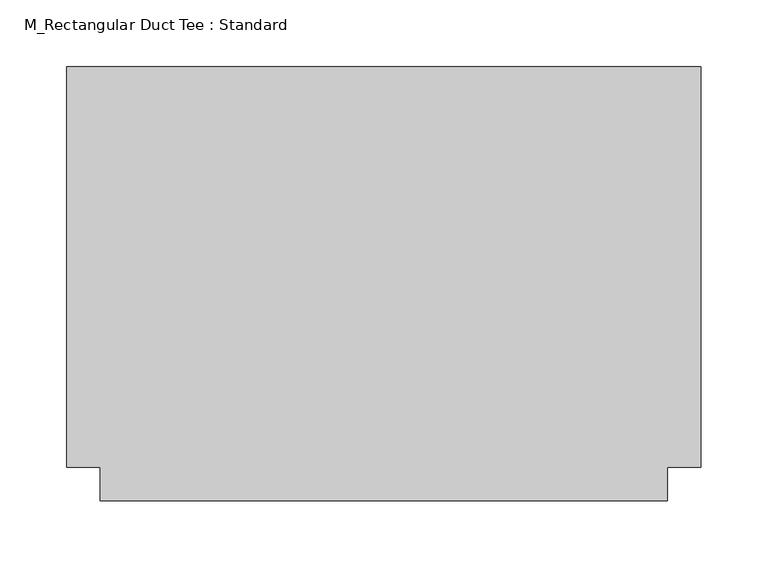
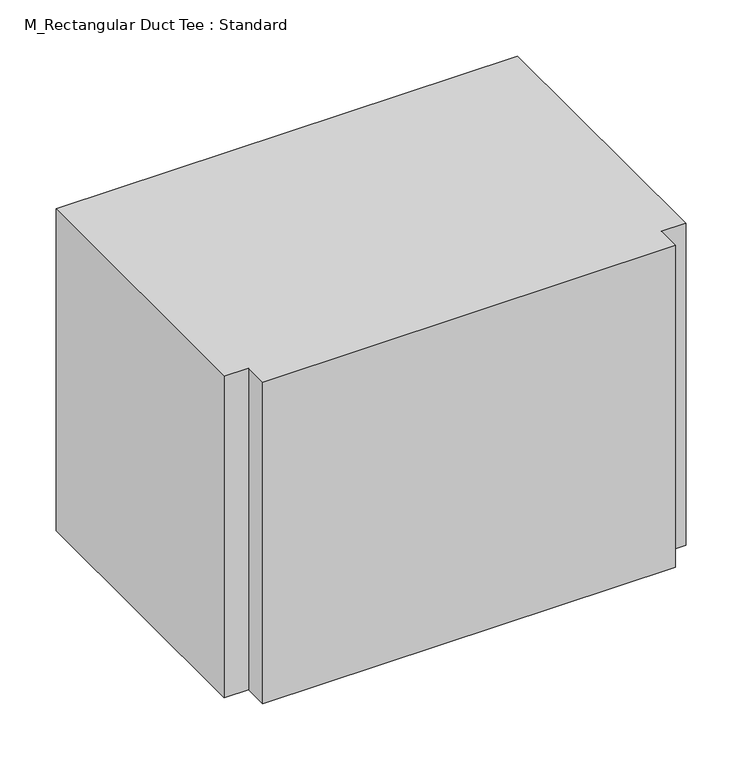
"""IFC4 building model written with IfcOpenShell, lengths in millimetres: duct fitting geometry, M_Rectangular Duct Tee : Standard."""

from ifc_helpers import new_model, si_unit, frame, origin, place, context, project, spatial, polyline, outline, extrude, source, transform, mapped, element, save


def m_rectangular_duct_tee_standard_99600bcc(model_context):
    return source(origin(), model_context, "Body", "SweptSolid", [
        extrude(outline(polyline([(-237.5, -150.0), (-237.5, 150.0), (237.5, 150.0), (237.5, -150.0), (212.5, -150.0), (212.5, -175.0), (-212.5, -175.0), (-212.5, -150.0), (-237.5, -150.0)])), frame((0.0, 0.0, -175.0), z_axis=(0.0, 0.0, 1.0), x_axis=(1.0, 0.0, 0.0)), (0.0, 0.0, 1.0), 350.0),
        extrude(outline(polyline([(-237.5, 150.0), (237.5, 150.0), (237.5, -150.0), (212.5, -150.0), (212.5, -175.0), (-212.5, -175.0), (-212.5, -150.0), (-237.5, -150.0), (-237.5, 150.0)])), frame((0.0, 0.0, -175.0), z_axis=(0.0, 0.0, 1.0), x_axis=(1.0, 0.0, 0.0)), (0.0, 0.0, 1.0), 350.0),
        extrude(outline(polyline([(-237.5, -150.0), (-237.5, 150.0), (237.5, 150.0), (237.5, -150.0), (212.5, -150.0), (212.5, -175.0), (-212.5, -175.0), (-212.5, -150.0), (-237.5, -150.0)])), frame((0.0, 0.0, -175.0), z_axis=(0.0, 0.0, 1.0), x_axis=(1.0, 0.0, 0.0)), (0.0, 0.0, 1.0), 350.0),
    ])


if __name__ == "__main__":
    model = new_model("IFC4")
    model_context = context("Model", 3, world=origin())
    ifc_project = project(units=[si_unit("LENGTHUNIT", "METRE", prefix="MILLI")], contexts=[model_context])
    site = spatial("IfcSite", under=ifc_project)
    building = spatial("IfcBuilding", under=site)
    placement = place(None, origin())
    m_rectangular_duct_tee_standard_shape = m_rectangular_duct_tee_standard_99600bcc(model_context)
    element("IfcDuctFitting", 1, ObjectType="M_Rectangular Duct Tee : Standard", at=placement, inside=building, context=model_context, shape_type="MappedRepresentation", body=[
        mapped(m_rectangular_duct_tee_standard_shape, transform((0.0, 0.0, 0.0), x_axis=(1.0, 0.0, 0.0), y_axis=(0.0, 1.0, 0.0), z_axis=(0.0, 0.0, 1.0))),
    ])
    save(model, "model.ifc")
